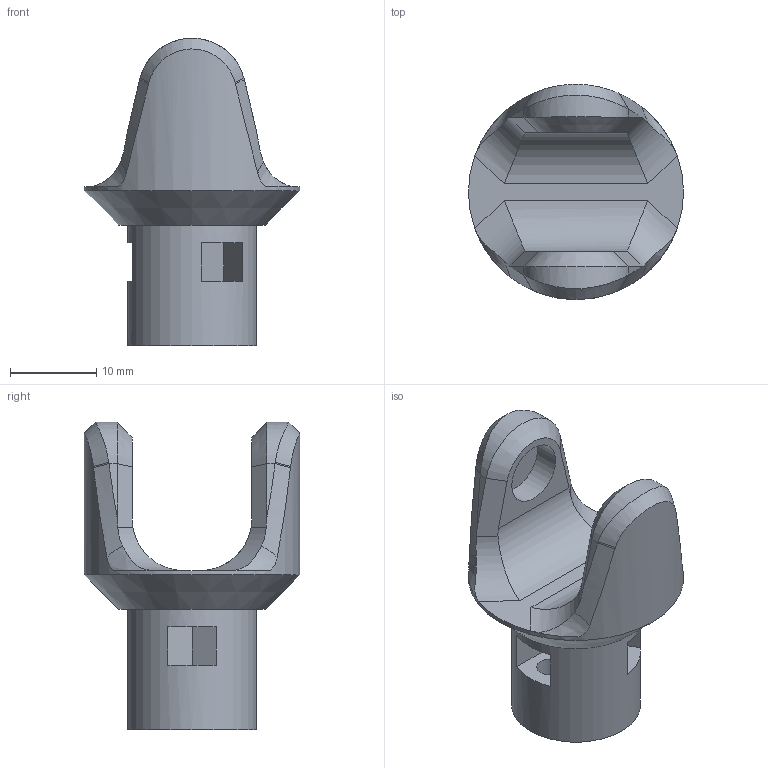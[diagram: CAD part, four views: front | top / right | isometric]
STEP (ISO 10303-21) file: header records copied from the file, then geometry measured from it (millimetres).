
FILE_DESCRIPTION(/* description */ (''),/* implementation_level */ '2;1');
FILE_NAME(/* name */ '3-19-2 Wheel cardan.step',/* time_stamp */ '2025-05-10T22:05:08+02:00',/* author */ (''),/* organization */ (''),/* preprocessor_version */ 'ST-DEVELOPER v20.1',/* originating_system */ 'Autodesk Translation Framework v14.4.0.0',/* authorisation */ '');
FILE_SCHEMA (('AUTOMOTIVE_DESIGN { 1 0 10303 214 3 1 1 }'));
Length unit declared in the file: millimetre
Products named in the file (1): 3-19-2 Wheel cardan
Bounding box: 25 x 25 x 35.75 mm (x, y, z)
Volume: 5504.4 mm3; surface area: 3456.5 mm2
Topology: 1 solids, 1 shells, 71 faces, 172 edges, 111 vertices
Faces by surface type: plane 36, cylinder 18, bspline 14, cone 3
Full cylindrical faces by diameter (mm): 3.2 x6, 7.2 x2, 15 x1, 25 x1
Entity records: 3087 total; most frequent: CARTESIAN_POINT 1408, ORIENTED_EDGE 342, DIRECTION 322, EDGE_CURVE 171, AXIS2_PLACEMENT_3D 118, VERTEX_POINT 111, LINE 86, VECTOR 86
